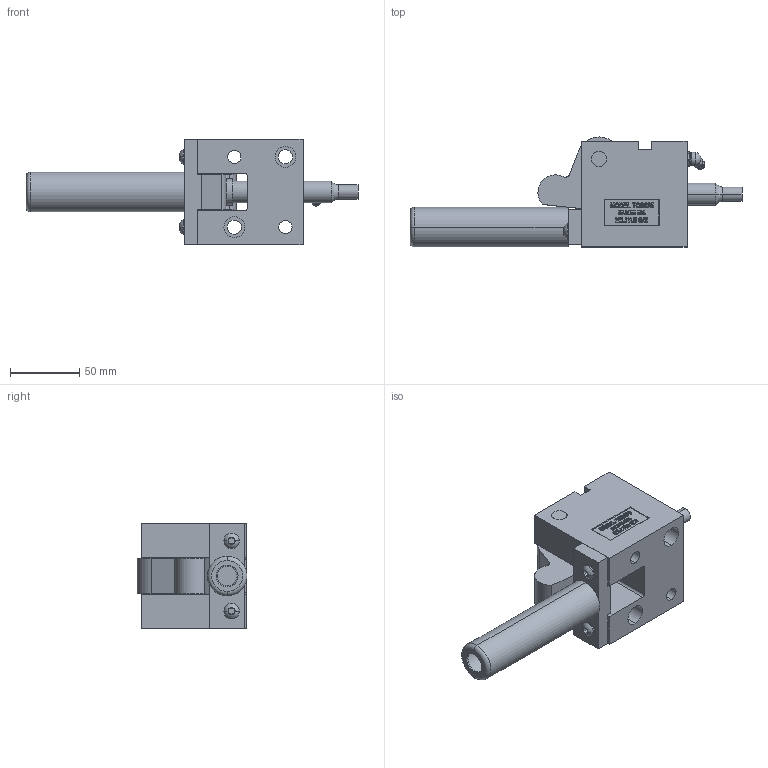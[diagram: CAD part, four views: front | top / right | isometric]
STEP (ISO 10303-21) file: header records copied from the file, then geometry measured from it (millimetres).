
FILE_DESCRIPTION (( 'STEP AP214' ), '1' );
FILE_NAME ('TOS62545-C.STEP', '2014-01-05T21:52:45', ( 'user' ), ( '' ), 'SwSTEP 2.0', 'SolidWorks 2009', '' );
FILE_SCHEMA (( 'AUTOMOTIVE_DESIGN' ));
Length unit declared in the file: inch
Products named in the file (10): OS625-PUNCH; TOS625-BODY; 625-O-STRAP; GREASE ZERK; TOS62545-C; 625-OFFSET TRIGGER; 625 PIVOT PIN; O-625-POINT; 1-4 SCREW; OS625-CAGE
Assembly tree (10 placements, depth 2):
  TOS62545-C
    OS625-CAGE
    O-625-POINT
    1-4 SCREW  x2
    625-O-STRAP
    625 PIVOT PIN
    OS625-PUNCH
    625-OFFSET TRIGGER
    TOS625-BODY
    GREASE ZERK
Bounding box: 239.57 x 79.37 x 76.2 mm (x, y, z)
Volume: 426060.1 mm3; surface area: 97819.8 mm2
Topology: 10 solids, 10 shells, 589 faces, 1526 edges, 1004 vertices
Faces by surface type: plane 339, bspline 114, cylinder 84, cone 26, torus 22, sphere 4
Entity records: 24144 total; most frequent: CARTESIAN_POINT 10505, ORIENTED_EDGE 2964, DIRECTION 2320, EDGE_CURVE 1482, VERTEX_POINT 978, LINE 964, VECTOR 964, AXIS2_PLACEMENT_3D 678
